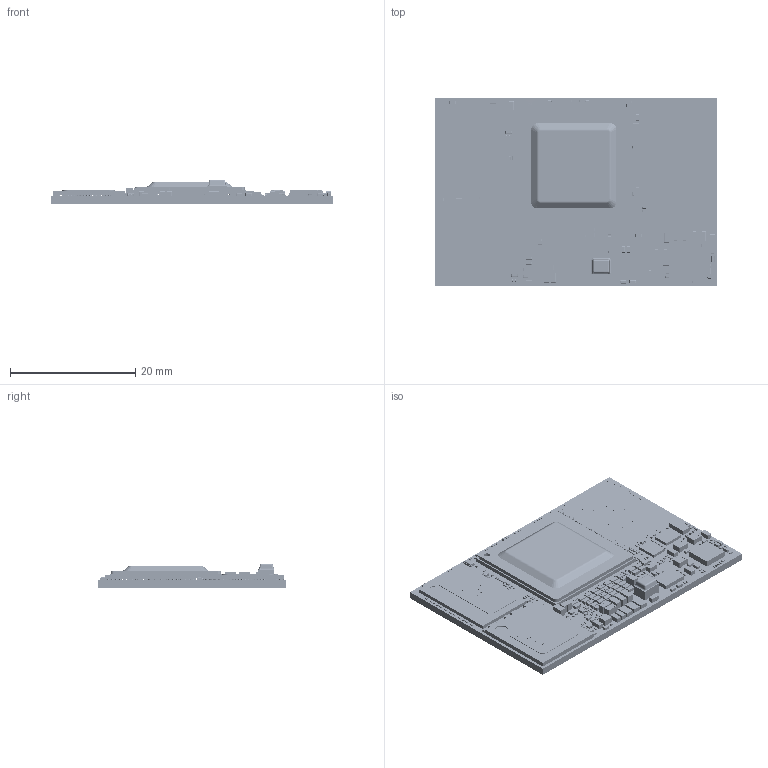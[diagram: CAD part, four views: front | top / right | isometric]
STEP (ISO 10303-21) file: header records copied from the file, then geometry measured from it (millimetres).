
FILE_DESCRIPTION (( 'STEP AP214' ), '1' );
FILE_NAME ('EZOMI-67A-0416-00000-2.STEP', '2026-05-20T06:02:05', ( '' ), ( '' ), 'SwSTEP 2.0', 'SolidWorks 2025', '' );
FILE_SCHEMA (( 'AUTOMOTIVE_DESIGN' ));
Length unit declared in the file: millimetre
Products named in the file (1): EZOMI-67A-0416-00000-2
Bounding box: 45 x 30 x 3.83 mm (x, y, z)
Surface area: 9074.4 mm2 (no closed solid volume)
Topology: 0 solids, 2412 shells, 26114 faces, 63763 edges, 40393 vertices
Faces by surface type: plane 21968, sphere 2114, cylinder 1681, bspline 351
Entity records: 1049798 total; most frequent: CARTESIAN_POINT 145013, ORIENTED_EDGE 121438, DIRECTION 115955, EDGE_CURVE 60764, LINE 55085, VECTOR 55085, VERTEX_POINT 39504, AXIS2_PLACEMENT_3D 30435
